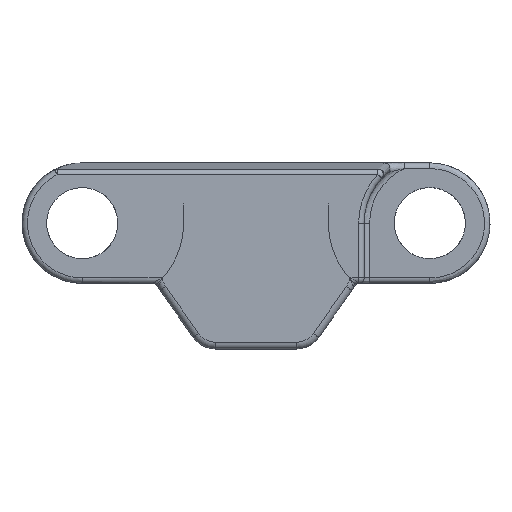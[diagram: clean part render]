
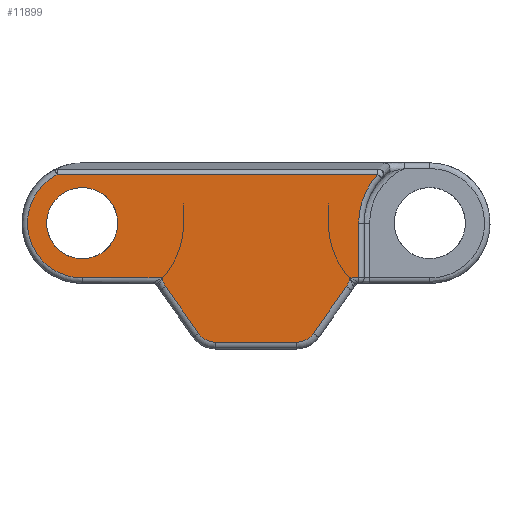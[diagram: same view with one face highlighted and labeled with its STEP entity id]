
A CAD part, left-side view. The second image highlights one B-rep face of the part: STEP entity #11899.
In plain terms, the highlighted planar face has unit normal (-1, 0, 0).
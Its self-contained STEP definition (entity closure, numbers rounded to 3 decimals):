
#1=CARTESIAN_POINT('',(0.,12.7,0.));
#2=DIRECTION('',(-1.,0.,0.));
#3=DIRECTION('',(0.,-1.,0.));
#4=AXIS2_PLACEMENT_3D('',#1,#2,#3);
#6=CARTESIAN_POINT('',(0.,12.7,0.));
#7=DIRECTION('',(-1.,0.,0.));
#8=DIRECTION('',(0.,1.,0.));
#9=AXIS2_PLACEMENT_3D('',#6,#7,#8);
#11=DIRECTION('',(0.,-1.,0.));
#12=VECTOR('',#11,5.843);
#13=CARTESIAN_POINT('',(0.,12.7,-4.));
#14=LINE('',#13,#12);
#15=CARTESIAN_POINT('',(0.,12.7,0.));
#16=DIRECTION('',(-1.,0.,0.));
#17=DIRECTION('',(0.,0.46,0.888));
#18=AXIS2_PLACEMENT_3D('',#15,#16,#17);
#20=DIRECTION('',(0.,1.,0.));
#21=VECTOR('',#20,23.441);
#22=CARTESIAN_POINT('',(0.,-8.902,3.552));
#23=LINE('',#22,#21);
#24=CARTESIAN_POINT('',(0.,-12.7,0.));
#25=DIRECTION('',(1.,0.,0.));
#26=DIRECTION('',(0.,1.,0.));
#27=AXIS2_PLACEMENT_3D('',#24,#25,#26);
#29=DIRECTION('',(0.,0.,1.));
#30=VECTOR('',#29,4.);
#31=CARTESIAN_POINT('',(0.,-7.5,-4.));
#32=LINE('',#31,#30);
#33=DIRECTION('',(0.,-1.,0.));
#34=VECTOR('',#33,0.643);
#35=CARTESIAN_POINT('',(0.,-6.857,-4.));
#36=LINE('',#35,#34);
#37=CARTESIAN_POINT('',(0.,-5.375,-3.767));
#38=DIRECTION('',(1.,0.,0.));
#39=DIRECTION('',(0.,-0.988,-0.155));
#40=AXIS2_PLACEMENT_3D('',#37,#38,#39);
#42=DIRECTION('',(0.,0.575,-0.818));
#43=VECTOR('',#42,4.196);
#44=CARTESIAN_POINT('',(0.,-6.602,-4.63));
#45=LINE('',#44,#43);
#46=CARTESIAN_POINT('',(0.,-2.961,-7.2));
#47=DIRECTION('',(1.,0.,0.));
#48=DIRECTION('',(0.,-0.818,-0.575));
#49=AXIS2_PLACEMENT_3D('',#46,#47,#48);
#51=DIRECTION('',(0.,1.,0.));
#52=VECTOR('',#51,5.923);
#53=CARTESIAN_POINT('',(0.,-2.961,-8.7));
#54=LINE('',#53,#52);
#55=CARTESIAN_POINT('',(0.,2.961,-7.2));
#56=DIRECTION('',(1.,0.,0.));
#57=DIRECTION('',(0.,0.,-1.));
#58=AXIS2_PLACEMENT_3D('',#55,#56,#57);
#60=DIRECTION('',(0.,0.575,0.818));
#61=VECTOR('',#60,4.196);
#62=CARTESIAN_POINT('',(0.,4.188,-8.063));
#63=LINE('',#62,#61);
#64=CARTESIAN_POINT('',(0.,5.375,-3.767));
#65=DIRECTION('',(1.,0.,0.));
#66=DIRECTION('',(0.,0.818,-0.575));
#67=AXIS2_PLACEMENT_3D('',#64,#65,#66);
#1302=CARTESIAN_POINT('',(0.,-6.857,-4.));
#3217=CARTESIAN_POINT('',(0.,6.857,-4.));
#9991=CARTESIAN_POINT('',(0.,10.1,0.));
#9992=CARTESIAN_POINT('',(0.,15.3,0.));
#9993=VERTEX_POINT('',#9991);
#9994=VERTEX_POINT('',#9992);
#11491=CARTESIAN_POINT('',(0.,-7.5,-4.));
#11492=CARTESIAN_POINT('',(0.,-7.5,0.));
#11493=VERTEX_POINT('',#11491);
#11494=VERTEX_POINT('',#11492);
#11499=CARTESIAN_POINT('',(0.,-8.902,
3.552));
#11500=VERTEX_POINT('',#11499);
#11505=CARTESIAN_POINT('',(0.,14.539,3.552));
#11506=VERTEX_POINT('',#11505);
#11511=CARTESIAN_POINT('',(0.,12.7,-4.));
#11512=VERTEX_POINT('',#11511);
#11668=CARTESIAN_POINT('',(0.,4.188,-8.063));
#11669=CARTESIAN_POINT('',(0.,6.602,-4.63));
#11670=VERTEX_POINT('',#11668);
#11671=VERTEX_POINT('',#11669);
#11676=CARTESIAN_POINT('',(0.,2.961,-8.7));
#11677=VERTEX_POINT('',#11676);
#11680=CARTESIAN_POINT('',(0.,-2.961,-8.7));
#11681=VERTEX_POINT('',#11680);
#11684=CARTESIAN_POINT('',(0.,-4.188,-8.063));
#11685=VERTEX_POINT('',#11684);
#11688=CARTESIAN_POINT('',(0.,-6.602,-4.63));
#11689=VERTEX_POINT('',#11688);
#11713=VERTEX_POINT('',#1302);
#11763=VERTEX_POINT('',#3217);
#11860=CARTESIAN_POINT('',(0.,0.,0.));
#11861=DIRECTION('',(1.,0.,0.));
#11862=DIRECTION('',(0.,-1.,0.));
#11863=AXIS2_PLACEMENT_3D('',#11860,#11861,#11862);
#11864=PLANE('',#11863);
#11866=ORIENTED_EDGE('',*,*,#11865,.F.);
#11868=ORIENTED_EDGE('',*,*,#11867,.F.);
#11870=ORIENTED_EDGE('',*,*,#11869,.F.);
#11872=ORIENTED_EDGE('',*,*,#11871,.F.);
#11874=ORIENTED_EDGE('',*,*,#11873,.F.);
#11876=ORIENTED_EDGE('',*,*,#11875,.F.);
#11878=ORIENTED_EDGE('',*,*,#11877,.T.);
#11880=ORIENTED_EDGE('',*,*,#11879,.T.);
#11882=ORIENTED_EDGE('',*,*,#11881,.T.);
#11884=ORIENTED_EDGE('',*,*,#11883,.T.);
#11886=ORIENTED_EDGE('',*,*,#11885,.T.);
#11888=ORIENTED_EDGE('',*,*,#11887,.T.);
#11890=ORIENTED_EDGE('',*,*,#11889,.T.);
#11891=EDGE_LOOP('',(#11866,#11868,#11870,#11872,#11874,#11876,#11878,#11880,
#11882,#11884,#11886,#11888,#11890));
#11892=FACE_OUTER_BOUND('',#11891,.F.);
#11894=ORIENTED_EDGE('',*,*,#11893,.T.);
#11896=ORIENTED_EDGE('',*,*,#11895,.T.);
#11897=EDGE_LOOP('',(#11894,#11896));
#11898=FACE_BOUND('',#11897,.F.);
#11899=ADVANCED_FACE('',(#11892,#11898),#11864,.F.);
#5=CIRCLE('',#4,2.6);
#10=CIRCLE('',#9,2.6);
#19=CIRCLE('',#18,4.);
#28=CIRCLE('',#27,5.2);
#41=CIRCLE('',#40,1.5);
#50=CIRCLE('',#49,1.5);
#59=CIRCLE('',#58,1.5);
#68=CIRCLE('',#67,1.5);
#11865=EDGE_CURVE('',#11512,#11763,#14,.T.);
#11867=EDGE_CURVE('',#11506,#11512,#19,.T.);
#11869=EDGE_CURVE('',#11500,#11506,#23,.T.);
#11871=EDGE_CURVE('',#11494,#11500,#28,.T.);
#11873=EDGE_CURVE('',#11493,#11494,#32,.T.);
#11875=EDGE_CURVE('',#11713,#11493,#36,.T.);
#11877=EDGE_CURVE('',#11713,#11689,#41,.T.);
#11879=EDGE_CURVE('',#11689,#11685,#45,.T.);
#11881=EDGE_CURVE('',#11685,#11681,#50,.T.);
#11883=EDGE_CURVE('',#11681,#11677,#54,.T.);
#11885=EDGE_CURVE('',#11677,#11670,#59,.T.);
#11887=EDGE_CURVE('',#11670,#11671,#63,.T.);
#11889=EDGE_CURVE('',#11671,#11763,#68,.T.);
#11893=EDGE_CURVE('',#9993,#9994,#5,.T.);
#11895=EDGE_CURVE('',#9994,#9993,#10,.T.);
